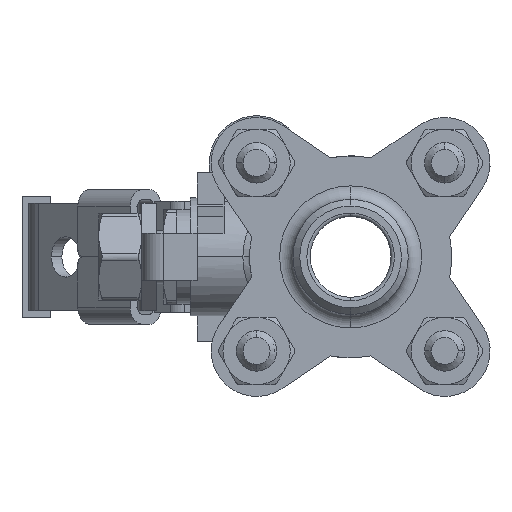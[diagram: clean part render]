
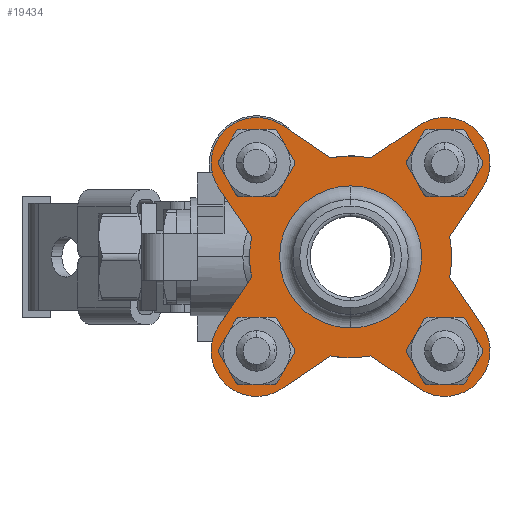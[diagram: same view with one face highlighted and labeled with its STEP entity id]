
A CAD part, left-side view. The second image highlights one B-rep face of the part: STEP entity #19434.
In plain terms, the highlighted planar face has unit normal (-1, 0, 0) as drawn and (0, 0, 1) by its records, which use the part's own axes.
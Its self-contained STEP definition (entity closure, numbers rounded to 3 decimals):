
#18689=CARTESIAN_POINT('',(-13.965,13.965,8.));
#18690=DIRECTION('',(0.,0.,-1.));
#18691=DIRECTION('',(1.,0.,0.));
#18692=AXIS2_PLACEMENT_3D('',#18689,#18690,#18691);
#18694=CARTESIAN_POINT('',(-13.965,13.965,8.));
#18695=DIRECTION('',(0.,0.,-1.));
#18696=DIRECTION('',(-1.,0.,0.));
#18697=AXIS2_PLACEMENT_3D('',#18694,#18695,#18696);
#18699=CARTESIAN_POINT('',(-13.965,-13.965,8.));
#18700=DIRECTION('',(0.,0.,-1.));
#18701=DIRECTION('',(1.,0.,0.));
#18702=AXIS2_PLACEMENT_3D('',#18699,#18700,#18701);
#18704=CARTESIAN_POINT('',(-13.965,-13.965,8.));
#18705=DIRECTION('',(0.,0.,-1.));
#18706=DIRECTION('',(-1.,0.,0.));
#18707=AXIS2_PLACEMENT_3D('',#18704,#18705,#18706);
#18709=CARTESIAN_POINT('',(13.965,-13.965,8.));
#18710=DIRECTION('',(0.,0.,-1.));
#18711=DIRECTION('',(1.,0.,0.));
#18712=AXIS2_PLACEMENT_3D('',#18709,#18710,#18711);
#18714=CARTESIAN_POINT('',(13.965,-13.965,8.));
#18715=DIRECTION('',(0.,0.,-1.));
#18716=DIRECTION('',(-1.,0.,0.));
#18717=AXIS2_PLACEMENT_3D('',#18714,#18715,#18716);
#18719=CARTESIAN_POINT('',(13.965,13.965,8.));
#18720=DIRECTION('',(0.,0.,-1.));
#18721=DIRECTION('',(1.,0.,0.));
#18722=AXIS2_PLACEMENT_3D('',#18719,#18720,#18721);
#18724=CARTESIAN_POINT('',(13.965,13.965,8.));
#18725=DIRECTION('',(0.,0.,-1.));
#18726=DIRECTION('',(-1.,0.,0.));
#18727=AXIS2_PLACEMENT_3D('',#18724,#18725,#18726);
#18729=CARTESIAN_POINT('',(0.,0.,8.));
#18730=DIRECTION('',(0.,0.,1.));
#18731=DIRECTION('',(0.2,0.98,0.));
#18732=AXIS2_PLACEMENT_3D('',#18729,#18730,#18731);
#18734=DIRECTION('',(-0.828,-0.56,0.));
#18735=VECTOR('',#18734,8.672);
#18736=CARTESIAN_POINT('',(10.183,19.556,8.));
#18737=LINE('',#18736,#18735);
#18738=CARTESIAN_POINT('',(13.965,13.965,8.));
#18739=DIRECTION('',(0.,0.,1.));
#18740=DIRECTION('',(0.828,-0.56,0.));
#18741=AXIS2_PLACEMENT_3D('',#18738,#18739,#18740);
#18743=DIRECTION('',(0.56,0.828,0.));
#18744=VECTOR('',#18743,8.672);
#18745=CARTESIAN_POINT('',(14.697,3.,8.));
#18746=LINE('',#18745,#18744);
#18747=CARTESIAN_POINT('',(0.,0.,8.));
#18748=DIRECTION('',(0.,0.,1.));
#18749=DIRECTION('',(0.98,-0.2,0.));
#18750=AXIS2_PLACEMENT_3D('',#18747,#18748,#18749);
#18752=DIRECTION('',(-0.56,0.828,0.));
#18753=VECTOR('',#18752,8.672);
#18754=CARTESIAN_POINT('',(19.556,-10.183,8.));
#18755=LINE('',#18754,#18753);
#18756=CARTESIAN_POINT('',(13.965,-13.965,8.));
#18757=DIRECTION('',(0.,0.,1.));
#18758=DIRECTION('',(-0.56,-0.828,0.));
#18759=AXIS2_PLACEMENT_3D('',#18756,#18757,#18758);
#18761=DIRECTION('',(0.828,-0.56,0.));
#18762=VECTOR('',#18761,8.672);
#18763=CARTESIAN_POINT('',(3.,-14.697,8.));
#18764=LINE('',#18763,#18762);
#18765=CARTESIAN_POINT('',(0.,0.,8.));
#18766=DIRECTION('',(0.,0.,1.));
#18767=DIRECTION('',(-0.2,-0.98,0.));
#18768=AXIS2_PLACEMENT_3D('',#18765,#18766,#18767);
#18770=DIRECTION('',(0.828,0.56,0.));
#18771=VECTOR('',#18770,8.672);
#18772=CARTESIAN_POINT('',(-10.183,-19.556,8.));
#18773=LINE('',#18772,#18771);
#18774=CARTESIAN_POINT('',(-13.965,-13.965,8.));
#18775=DIRECTION('',(0.,0.,1.));
#18776=DIRECTION('',(-0.828,0.56,0.));
#18777=AXIS2_PLACEMENT_3D('',#18774,#18775,#18776);
#18779=DIRECTION('',(-0.56,-0.828,0.));
#18780=VECTOR('',#18779,8.672);
#18781=CARTESIAN_POINT('',(-14.697,-3.,8.));
#18782=LINE('',#18781,#18780);
#18783=CARTESIAN_POINT('',(0.,0.,8.));
#18784=DIRECTION('',(0.,0.,1.));
#18785=DIRECTION('',(-0.98,0.2,0.));
#18786=AXIS2_PLACEMENT_3D('',#18783,#18784,#18785);
#18788=DIRECTION('',(0.56,-0.828,0.));
#18789=VECTOR('',#18788,8.672);
#18790=CARTESIAN_POINT('',(-19.556,10.183,8.));
#18791=LINE('',#18790,#18789);
#18792=CARTESIAN_POINT('',(-13.965,13.965,8.));
#18793=DIRECTION('',(0.,0.,1.));
#18794=DIRECTION('',(0.56,0.828,0.));
#18795=AXIS2_PLACEMENT_3D('',#18792,#18793,#18794);
#18797=DIRECTION('',(-0.828,0.56,0.));
#18798=VECTOR('',#18797,8.672);
#18799=CARTESIAN_POINT('',(-3.,14.697,8.));
#18800=LINE('',#18799,#18798);
#18801=CARTESIAN_POINT('',(0.,0.,8.));
#18802=DIRECTION('',(0.,0.,1.));
#18803=DIRECTION('',(1.,0.,0.));
#18804=AXIS2_PLACEMENT_3D('',#18801,#18802,#18803);
#18806=CARTESIAN_POINT('',(0.,0.,8.));
#18807=DIRECTION('',(0.,0.,1.));
#18808=DIRECTION('',(-1.,0.,0.));
#18809=AXIS2_PLACEMENT_3D('',#18806,#18807,#18808);
#19089=CARTESIAN_POINT('',(10.55,0.,8.));
#19090=CARTESIAN_POINT('',(-10.55,0.,8.));
#19091=VERTEX_POINT('',#19089);
#19092=VERTEX_POINT('',#19090);
#19117=CARTESIAN_POINT('',(-10.465,13.965,8.));
#19118=CARTESIAN_POINT('',(-17.465,13.965,8.));
#19119=VERTEX_POINT('',#19117);
#19120=VERTEX_POINT('',#19118);
#19121=CARTESIAN_POINT('',(-10.465,-13.965,8.));
#19122=CARTESIAN_POINT('',(-17.465,-13.965,8.));
#19123=VERTEX_POINT('',#19121);
#19124=VERTEX_POINT('',#19122);
#19125=CARTESIAN_POINT('',(17.465,-13.965,8.));
#19126=CARTESIAN_POINT('',(10.465,-13.965,8.));
#19127=VERTEX_POINT('',#19125);
#19128=VERTEX_POINT('',#19126);
#19129=CARTESIAN_POINT('',(17.465,13.965,8.));
#19130=CARTESIAN_POINT('',(10.465,13.965,8.));
#19131=VERTEX_POINT('',#19129);
#19132=VERTEX_POINT('',#19130);
#19133=CARTESIAN_POINT('',(3.,14.697,8.));
#19134=CARTESIAN_POINT('',(-3.,14.697,8.));
#19135=VERTEX_POINT('',#19133);
#19136=VERTEX_POINT('',#19134);
#19137=CARTESIAN_POINT('',(-10.183,19.556,8.));
#19138=VERTEX_POINT('',#19137);
#19139=CARTESIAN_POINT('',(-19.556,10.183,8.));
#19140=VERTEX_POINT('',#19139);
#19141=CARTESIAN_POINT('',(-14.697,3.,8.));
#19142=VERTEX_POINT('',#19141);
#19143=CARTESIAN_POINT('',(-14.697,-3.,8.));
#19144=VERTEX_POINT('',#19143);
#19145=CARTESIAN_POINT('',(-19.556,-10.183,8.));
#19146=VERTEX_POINT('',#19145);
#19147=CARTESIAN_POINT('',(-10.183,-19.556,8.));
#19148=VERTEX_POINT('',#19147);
#19149=CARTESIAN_POINT('',(-3.,-14.697,8.));
#19150=VERTEX_POINT('',#19149);
#19151=CARTESIAN_POINT('',(3.,-14.697,8.));
#19152=VERTEX_POINT('',#19151);
#19153=CARTESIAN_POINT('',(10.183,-19.556,8.));
#19154=VERTEX_POINT('',#19153);
#19155=CARTESIAN_POINT('',(19.556,-10.183,8.));
#19156=VERTEX_POINT('',#19155);
#19157=CARTESIAN_POINT('',(14.697,-3.,8.));
#19158=VERTEX_POINT('',#19157);
#19159=CARTESIAN_POINT('',(14.697,3.,8.));
#19160=VERTEX_POINT('',#19159);
#19161=CARTESIAN_POINT('',(19.556,10.183,8.));
#19162=VERTEX_POINT('',#19161);
#19163=CARTESIAN_POINT('',(10.183,19.556,8.));
#19164=VERTEX_POINT('',#19163);
#19370=CARTESIAN_POINT('',(0.,0.,8.));
#19371=DIRECTION('',(0.,0.,1.));
#19372=DIRECTION('',(1.,0.,0.));
#19373=AXIS2_PLACEMENT_3D('',#19370,#19371,#19372);
#19374=PLANE('',#19373);
#19376=ORIENTED_EDGE('',*,*,#19375,.F.);
#19378=ORIENTED_EDGE('',*,*,#19377,.F.);
#19380=ORIENTED_EDGE('',*,*,#19379,.F.);
#19381=ORIENTED_EDGE('',*,*,#19363,.F.);
#19382=ORIENTED_EDGE('',*,*,#19238,.F.);
#19384=ORIENTED_EDGE('',*,*,#19383,.F.);
#19386=ORIENTED_EDGE('',*,*,#19385,.F.);
#19388=ORIENTED_EDGE('',*,*,#19387,.F.);
#19389=ORIENTED_EDGE('',*,*,#19230,.F.);
#19391=ORIENTED_EDGE('',*,*,#19390,.F.);
#19393=ORIENTED_EDGE('',*,*,#19392,.F.);
#19394=ORIENTED_EDGE('',*,*,#19266,.F.);
#19395=ORIENTED_EDGE('',*,*,#19253,.F.);
#19397=ORIENTED_EDGE('',*,*,#19396,.F.);
#19399=ORIENTED_EDGE('',*,*,#19398,.F.);
#19401=ORIENTED_EDGE('',*,*,#19400,.F.);
#19402=EDGE_LOOP('',(#19376,#19378,#19380,#19381,#19382,#19384,#19386,#19388,
#19389,#19391,#19393,#19394,#19395,#19397,#19399,#19401));
#19403=FACE_OUTER_BOUND('',#19402,.F.);
#19405=ORIENTED_EDGE('',*,*,#19404,.F.);
#19407=ORIENTED_EDGE('',*,*,#19406,.F.);
#19408=EDGE_LOOP('',(#19405,#19407));
#19409=FACE_BOUND('',#19408,.F.);
#19411=ORIENTED_EDGE('',*,*,#19410,.F.);
#19413=ORIENTED_EDGE('',*,*,#19412,.F.);
#19414=EDGE_LOOP('',(#19411,#19413));
#19415=FACE_BOUND('',#19414,.F.);
#19417=ORIENTED_EDGE('',*,*,#19416,.F.);
#19419=ORIENTED_EDGE('',*,*,#19418,.F.);
#19420=EDGE_LOOP('',(#19417,#19419));
#19421=FACE_BOUND('',#19420,.F.);
#19423=ORIENTED_EDGE('',*,*,#19422,.F.);
#19425=ORIENTED_EDGE('',*,*,#19424,.F.);
#19426=EDGE_LOOP('',(#19423,#19425));
#19427=FACE_BOUND('',#19426,.F.);
#19429=ORIENTED_EDGE('',*,*,#19428,.T.);
#19431=ORIENTED_EDGE('',*,*,#19430,.T.);
#19432=EDGE_LOOP('',(#19429,#19431));
#19433=FACE_BOUND('',#19432,.F.);
#19434=ADVANCED_FACE('',(#19403,#19409,#19415,#19421,#19427,#19433),#19374,.T.);
#18693=CIRCLE('',#18692,3.5);
#18698=CIRCLE('',#18697,3.5);
#18703=CIRCLE('',#18702,3.5);
#18708=CIRCLE('',#18707,3.5);
#18713=CIRCLE('',#18712,3.5);
#18718=CIRCLE('',#18717,3.5);
#18723=CIRCLE('',#18722,3.5);
#18728=CIRCLE('',#18727,3.5);
#18733=CIRCLE('',#18732,15.);
#18742=CIRCLE('',#18741,6.75);
#18751=CIRCLE('',#18750,15.);
#18760=CIRCLE('',#18759,6.75);
#18769=CIRCLE('',#18768,15.);
#18778=CIRCLE('',#18777,6.75);
#18787=CIRCLE('',#18786,15.);
#18796=CIRCLE('',#18795,6.75);
#18805=CIRCLE('',#18804,10.55);
#18810=CIRCLE('',#18809,10.55);
#19230=EDGE_CURVE('',#19150,#19152,#18769,.T.);
#19238=EDGE_CURVE('',#19158,#19160,#18751,.T.);
#19253=EDGE_CURVE('',#19142,#19144,#18787,.T.);
#19266=EDGE_CURVE('',#19144,#19146,#18782,.T.);
#19363=EDGE_CURVE('',#19160,#19162,#18746,.T.);
#19375=EDGE_CURVE('',#19135,#19136,#18733,.T.);
#19377=EDGE_CURVE('',#19164,#19135,#18737,.T.);
#19379=EDGE_CURVE('',#19162,#19164,#18742,.T.);
#19383=EDGE_CURVE('',#19156,#19158,#18755,.T.);
#19385=EDGE_CURVE('',#19154,#19156,#18760,.T.);
#19387=EDGE_CURVE('',#19152,#19154,#18764,.T.);
#19390=EDGE_CURVE('',#19148,#19150,#18773,.T.);
#19392=EDGE_CURVE('',#19146,#19148,#18778,.T.);
#19396=EDGE_CURVE('',#19140,#19142,#18791,.T.);
#19398=EDGE_CURVE('',#19138,#19140,#18796,.T.);
#19400=EDGE_CURVE('',#19136,#19138,#18800,.T.);
#19404=EDGE_CURVE('',#19123,#19124,#18703,.T.);
#19406=EDGE_CURVE('',#19124,#19123,#18708,.T.);
#19410=EDGE_CURVE('',#19127,#19128,#18713,.T.);
#19412=EDGE_CURVE('',#19128,#19127,#18718,.T.);
#19416=EDGE_CURVE('',#19131,#19132,#18723,.T.);
#19418=EDGE_CURVE('',#19132,#19131,#18728,.T.);
#19422=EDGE_CURVE('',#19119,#19120,#18693,.T.);
#19424=EDGE_CURVE('',#19120,#19119,#18698,.T.);
#19428=EDGE_CURVE('',#19091,#19092,#18805,.T.);
#19430=EDGE_CURVE('',#19092,#19091,#18810,.T.);
